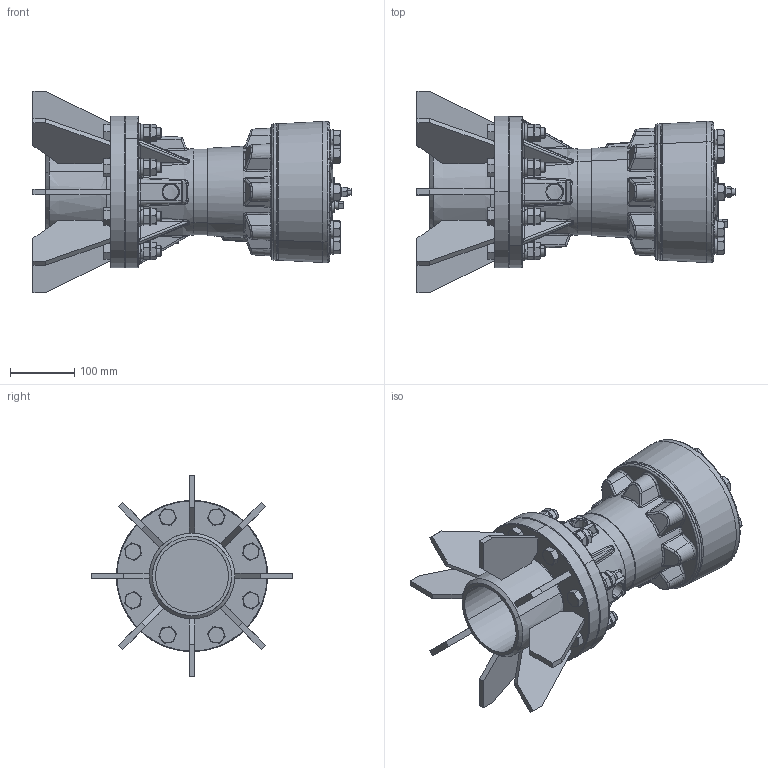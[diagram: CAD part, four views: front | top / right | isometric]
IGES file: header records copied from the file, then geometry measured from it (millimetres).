
Start section: SolidWorks IGES file using analytic representation for surfaces
Global section: file name: V:\WORK\08133\HP 寸法図\knocker\RKV120P\test_K61000A-000 RKV120P and base set_defeature.IGS,15; native system: HSolidWorks 2018; preprocessor: SolidWorks 2018; author: n-udagawa; date: 230117.102307; units: millimetre
Bounding box: 494 x 313 x 313 mm (x, y, z)
Surface area: 612873 mm2 (no closed solid volume)
Topology: 0 solids, 0 shells, 1460 faces, 22224 edges, 25510 vertices
Faces by surface type: bspline 947, revolution 513
